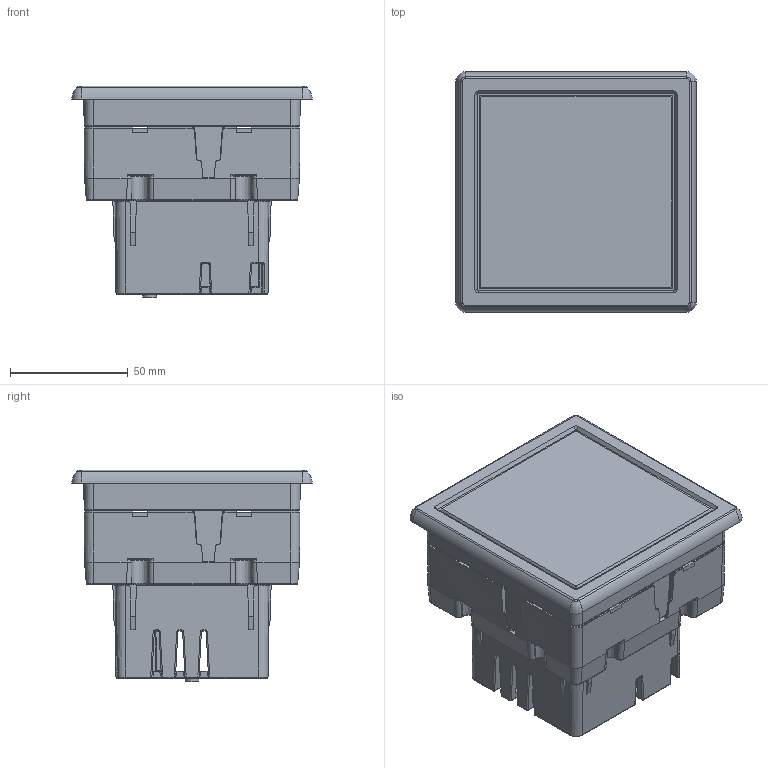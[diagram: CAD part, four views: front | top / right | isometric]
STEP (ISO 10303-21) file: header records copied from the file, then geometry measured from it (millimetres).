
FILE_DESCRIPTION(/* description */ (''),/* implementation_level */ '2;1');
FILE_NAME(/* name */ 'XL96_asm_Rear_mount_3D CAD_20250123.stp',/* time_stamp */ '2025-01-23T10:05:57+01:00',/* author */ ('JDI'),/* organization */ (''),/* preprocessor_version */ 'ST-DEVELOPER v19.2',/* originating_system */ 'Autodesk Inventor 2023',/* authorisation */ '');
FILE_SCHEMA (('AUTOMOTIVE_DESIGN { 1 0 10303 214 3 1 1 }'));
Products named in the file (8): XL96_Assembly; 1100610034; 1149010002-1; 1149010002; 1100510091; 1120330005; 1120700005; 1120700009
Assembly tree (7 placements, depth 3):
  XL96_Assembly
    1100610034
      1149010002-1
      1149010002
    1100510091
    1120330005
    1120700005
    1120700009
Bounding box: 102 x 102 x 89.75 mm (x, y, z)
Volume: 156307.1 mm3; surface area: 131100.2 mm2
Topology: 6 solids, 6 shells, 2863 faces, 7104 edges, 4172 vertices
Faces by surface type: cylinder 983, plane 731, bspline 389, torus 342, cone 280, sphere 138
Full cylindrical faces by diameter (mm): 0.6 x2
Entity records: 127078 total; most frequent: CARTESIAN_POINT 61316, ORIENTED_EDGE 13934, DIRECTION 13716, EDGE_CURVE 6967, AXIS2_PLACEMENT_3D 5347, VERTEX_POINT 4172, LINE 3022, VECTOR 3022
